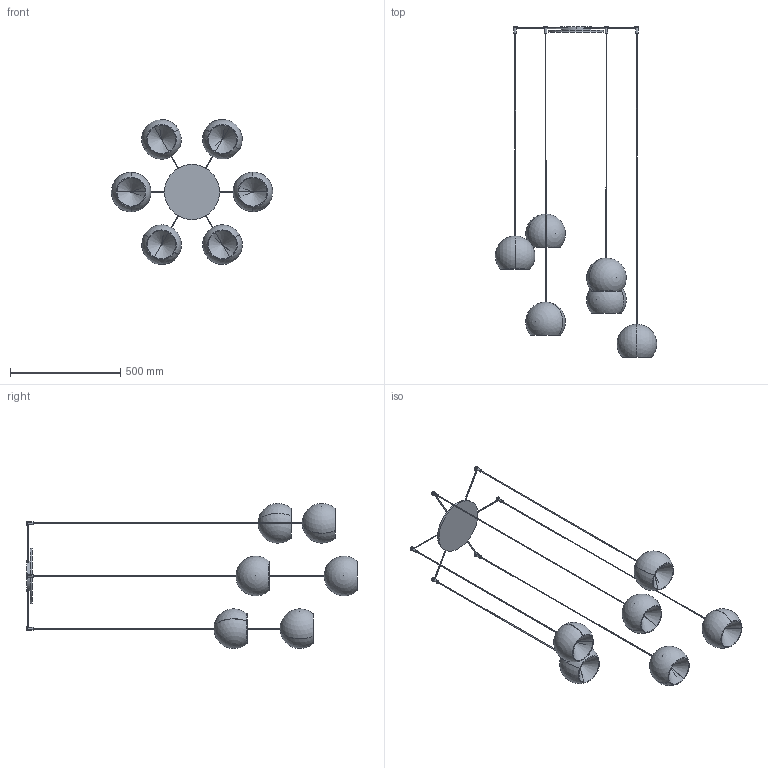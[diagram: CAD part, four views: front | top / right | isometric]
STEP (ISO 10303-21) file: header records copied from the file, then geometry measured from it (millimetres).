
FILE_DESCRIPTION (( 'STEP AP203' ), '1' );
FILE_NAME ('CHR06-00-CHERRY_6 sospensione.STEP', '2024-07-31T08:07:48', ( '' ), ( '' ), 'SwSTEP 2.0', 'SolidWorks 2022', '' );
FILE_SCHEMA (( 'CONFIG_CONTROL_DESIGN' ));
Length unit declared in the file: millimetre
Products named in the file (8): CHERRY_Lampada singola Diam.180_H=1700; CHERRY_Lampada singola Diam.180_H=1600; CHERRY_Lampada singola Diam.180_H=1900; CHR06-00-CHERRY_6 sospensione; CHERRY_Lampada singola Diam.180_H=1500; CHERRY_Rosone diam.250_Cherry 6<A macchina>; CHERRY_Lampada singola Diam.180_H=2000; CHERRY_Lampada singola Diam.180_H=1800
Assembly tree (7 placements, depth 2):
  CHR06-00-CHERRY_6 sospensione
    CHERRY_Rosone diam.250_Cherry 6<A macchina>
    CHERRY_Lampada singola Diam.180_H=1500
    CHERRY_Lampada singola Diam.180_H=1800
    CHERRY_Lampada singola Diam.180_H=1600
    CHERRY_Lampada singola Diam.180_H=1900
    CHERRY_Lampada singola Diam.180_H=2000
    CHERRY_Lampada singola Diam.180_H=1700
Bounding box: 732 x 1500 x 658.04 mm (x, y, z)
Volume: 1937836.3 mm3; surface area: 1477031.3 mm2
Topology: 31 solids, 31 shells, 228 faces, 542 edges, 341 vertices
Faces by surface type: cylinder 109, plane 71, sphere 24, cone 24
Entity records: 7196 total; most frequent: CARTESIAN_POINT 1490, DIRECTION 1131, ORIENTED_EDGE 916, AXIS2_PLACEMENT_3D 502, EDGE_CURVE 458, VERTEX_POINT 305, CIRCLE 264, EDGE_LOOP 253
